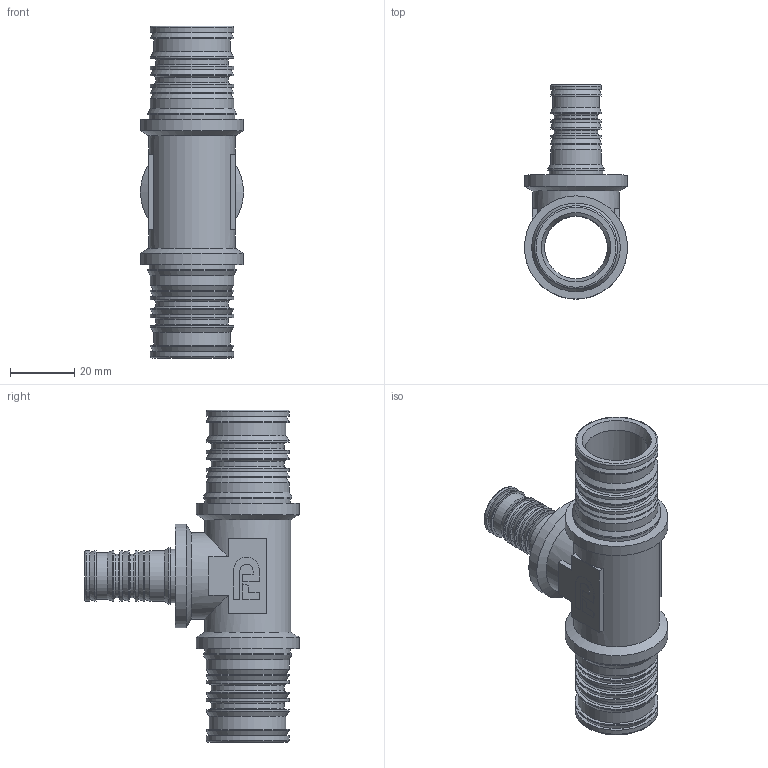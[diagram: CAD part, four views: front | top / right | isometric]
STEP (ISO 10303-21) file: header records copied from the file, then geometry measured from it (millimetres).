
FILE_DESCRIPTION(/* description */ (''),/* implementation_level */ '2;1');
FILE_NAME(/* name */ 'C:\Users\Doom\Desktop\Фадотех\Пресс\HDT10-1 31.03.2020\HDT10-1 31.03.2020.stp',/* time_stamp */ '2022-08-12T15:46:19+03:00',/* author */ ('Doom'),/* organization */ (''),/* preprocessor_version */ 'ST-DEVELOPER v18',/* originating_system */ 'Autodesk Inventor 2020',/* authorisation */ '');
FILE_SCHEMA (('AUTOMOTIVE_DESIGN { 1 0 10303 214 3 1 1 }'));
Length unit declared in the file: millimetre
Products named in the file (1): HDT10-1 31.03.2020
Bounding box: 32 x 66.5 x 103 mm (x, y, z)
Volume: 32977.8 mm3; surface area: 22518.1 mm2
Topology: 1 solids, 1 shells, 179 faces, 495 edges, 354 vertices
Faces by surface type: plane 86, cylinder 46, cone 24, torus 15, bspline 8
Full cylindrical faces by diameter (mm): 11.5 x1, 13.5 x2, 14.3 x1, 15.8 x8, 16.6 x1, 17.5 x1, 19.5 x1, 22.6 x4, 23.8 x2, 25.8 x16, 26.5 x2, 26.7 x2, 27.5 x2, 32 x3
Entity records: 6081 total; most frequent: CARTESIAN_POINT 1168, DIRECTION 1090, ORIENTED_EDGE 990, EDGE_CURVE 495, AXIS2_PLACEMENT_3D 442, VERTEX_POINT 354, CIRCLE 266, EDGE_LOOP 219
